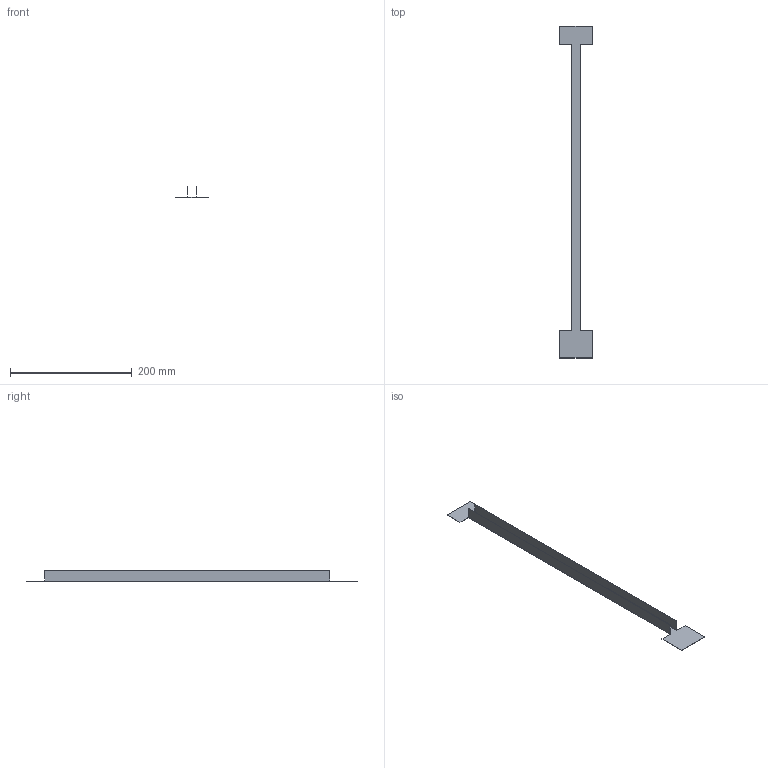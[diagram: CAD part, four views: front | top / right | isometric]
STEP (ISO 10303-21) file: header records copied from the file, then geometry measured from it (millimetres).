
FILE_DESCRIPTION(/* description */ (''),/* implementation_level */ '2;1');
FILE_NAME(/* name */ 'M18P20.stp',/* time_stamp */ '2024-05-02T16:59:29-04:00',/* author */ ('olivier.st-arneault'),/* organization */ (''),/* preprocessor_version */ 'ST-DEVELOPER v20',/* originating_system */ 'Autodesk Inventor 2024',/* authorisation */ '');
FILE_SCHEMA (('AUTOMOTIVE_DESIGN { 1 0 10303 214 3 1 1 }'));
Length unit declared in the file: inch
Products named in the file (1): M18P20
Bounding box: 53.98 x 546.1 x 19.05 mm (x, y, z)
Volume: 14554.9 mm3; surface area: 57993.3 mm2
Topology: 1 solids, 1 shells, 38 faces, 92 edges, 56 vertices
Faces by surface type: plane 34, cylinder 4
Entity records: 1121 total; most frequent: CARTESIAN_POINT 187, ORIENTED_EDGE 184, DIRECTION 178, EDGE_CURVE 92, LINE 84, VECTOR 84, VERTEX_POINT 56, AXIS2_PLACEMENT_3D 47
